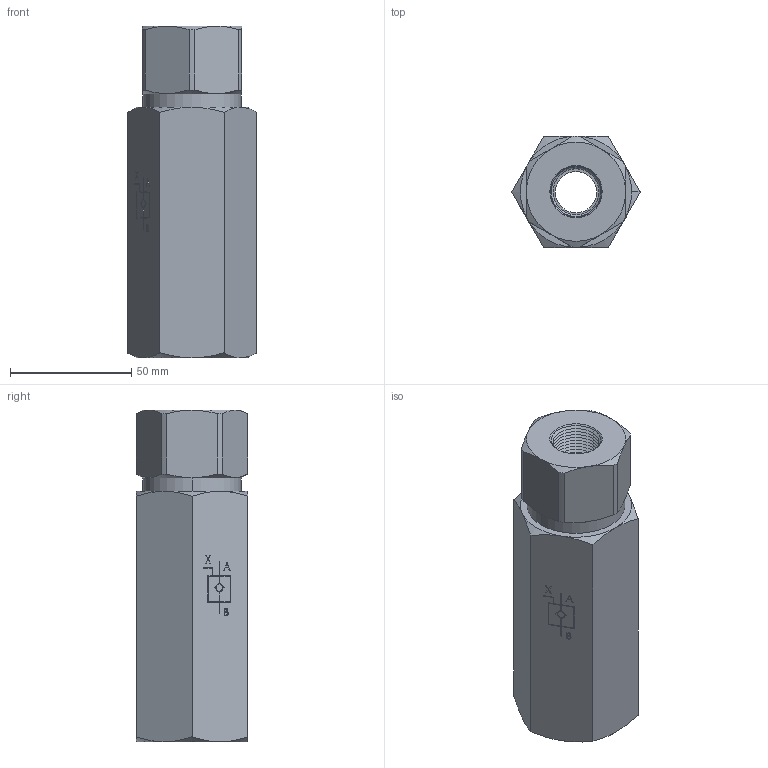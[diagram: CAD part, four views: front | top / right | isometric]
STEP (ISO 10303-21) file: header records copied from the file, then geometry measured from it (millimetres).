
FILE_DESCRIPTION (( 'STEP AP214' ), '1' );
FILE_NAME ('2257-7-12.STEP', '2015-04-08T20:56:22', ( '' ), ( '' ), 'SwSTEP 2.0', 'SolidWorks 2014', '' );
FILE_SCHEMA (( 'AUTOMOTIVE_DESIGN' ));
Length unit declared in the file: millimetre
Products named in the file (1): 2257-7-12
Bounding box: 53.12 x 46 x 137 mm (x, y, z)
Surface area: 27460.2 mm2 (no closed solid volume)
Topology: 0 solids, 34 shells, 305 faces, 1086 edges, 746 vertices
Faces by surface type: plane 162, cone 90, bspline 35, cylinder 18
Entity records: 17782 total; most frequent: CARTESIAN_POINT 5643, ORIENTED_EDGE 1689, DIRECTION 1662, EDGE_CURVE 1086, VERTEX_POINT 746, LINE 668, VECTOR 668, AXIS2_PLACEMENT_3D 497
